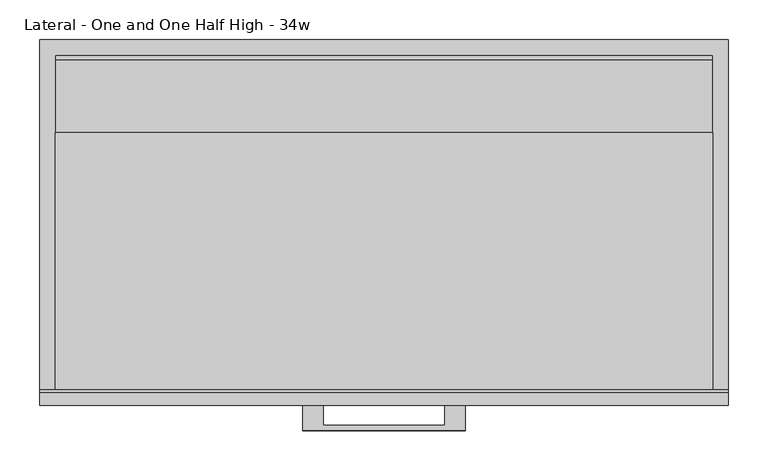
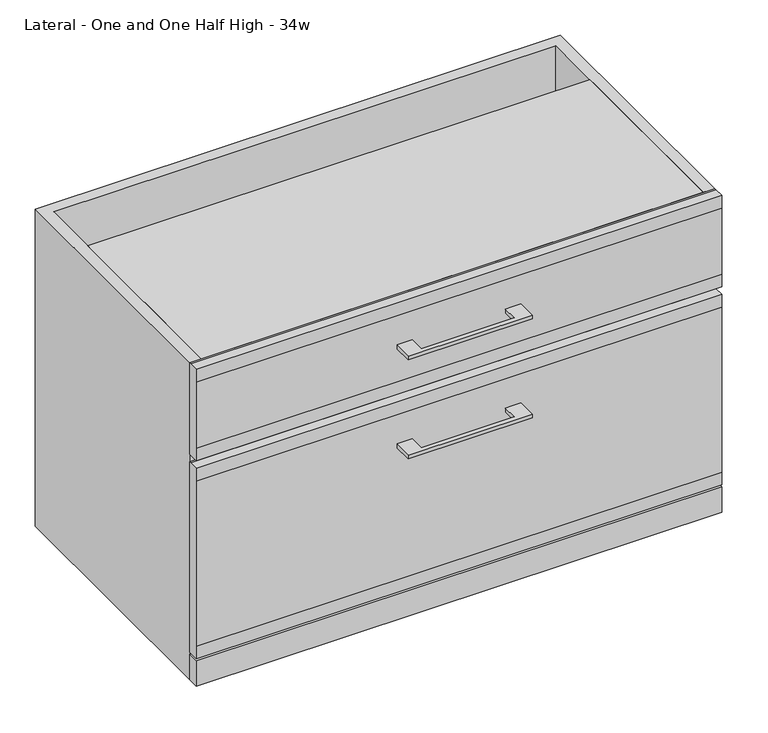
"""IFC4 building model written with IfcOpenShell, lengths in millimetres: furniture geometry, Haworth_Masters_AttachedStorage : Lateral - One and One Half High - 34w."""

from ifc_helpers import new_model, si_unit, frame, origin, origin_with_axes, place, context, project, spatial, polyline, outline, extrude, source, transform, mapped, element, save


def lateral_one_and_one_half_high_34w_b2feb271(model_context):
    return source(origin(), model_context, "Body", "SweptSolid", [
        extrude(outline(polyline([(3.1750121, -558.8), (3.1750121, -584.1999758), (155.5750061, -584.1999758), (155.5750061, -558.8), (180.975, -558.8), (180.975, -590.5499879), (-22.225, -590.5499879), (-22.225, -558.8), (3.1750121, -558.8)])), frame((0.0, 0.0, 469.9000506), z_axis=(0.0, 0.0, 1.0), x_axis=(1.0, 0.0, 0.0)), (0.0, 0.0, 1.0), 6.3499758),
        extrude(outline(polyline([(-542.925, 549.275), (-539.75, 549.275), (-539.75, 390.525), (-542.925, 390.525), (-558.8, 390.525), (-558.8, 412.75), (-558.8, 527.05), (-558.8, 549.275), (-542.925, 549.275)])), frame((-350.8375, 0.0, 0.0), z_axis=(1.0, 0.0, 0.0), x_axis=(0.0, 1.0, 0.0)), (0.0, 0.0, 1.0), 860.425),
        extrude(outline(polyline([(3.1750121, -558.8), (3.1750121, -584.1999758), (155.5750061, -584.1999758), (155.5750061, -558.8), (180.975, -558.8), (180.975, -590.5499879), (-22.225, -590.5499879), (-22.225, -558.8), (3.1750121, -558.8)])), frame((0.0, 0.0, 298.4500506), z_axis=(0.0, 0.0, 1.0), x_axis=(1.0, 0.0, 0.0)), (0.0, 0.0, 1.0), 6.3499758),
        extrude(outline(polyline([(-542.925, 377.825), (-539.75, 377.825), (-539.75, 47.625), (-542.925, 47.625), (-558.8, 47.625), (-558.8, 69.85), (-558.8, 355.6), (-558.8, 377.825), (-542.925, 377.825)])), frame((-350.8375, 0.0, 0.0), z_axis=(1.0, 0.0, 0.0), x_axis=(0.0, 1.0, 0.0)), (0.0, 0.0, 1.0), 860.425),
        extrude(outline(polyline([(490.5375, -120.65), (490.5375, -539.75), (-331.7875, -539.75), (-331.7875, -120.65), (490.5375, -120.65)])), origin_with_axes(), (0.0, 0.0, 1.0), 44.45),
        extrude(outline(polyline([(490.5375, -127.0), (490.5375, -539.75), (-331.7875, -539.75), (-331.7875, -127.0), (490.5375, -127.0)])), frame((0.0, 0.0, 369.8875), z_axis=(0.0, 0.0, 1.0), x_axis=(1.0, 0.0, 0.0)), (0.0, 0.0, 1.0), 19.05),
        extrude(outline(polyline([(509.5875, -539.75), (509.5875, -558.8), (-350.8375, -558.8), (-350.8375, -539.75), (509.5875, -539.75)])), origin_with_axes(), (0.0, 0.0, 1.0), 44.45),
        extrude(outline(polyline([(490.5375, -217.4875), (490.5375, -539.75), (-331.7875, -539.75), (-331.7875, -217.4875), (490.5375, -217.4875)])), frame((0.0, 0.0, 530.225), z_axis=(0.0, 0.0, 1.0), x_axis=(1.0, 0.0, 0.0)), (0.0, 0.0, 1.0), 19.05),
        extrude(outline(polyline([(509.5875, -101.6), (509.5875, -539.75), (490.5375, -539.75), (490.5375, -120.65), (-331.7875, -120.65), (-331.7875, -539.75), (-350.8375, -539.75), (-350.8375, -101.6), (509.5875, -101.6)])), origin_with_axes(), (0.0, 0.0, 1.0), 549.275),
    ])


if __name__ == "__main__":
    model = new_model("IFC4")
    model_context = context("Model", 3, world=origin())
    ifc_project = project(units=[si_unit("LENGTHUNIT", "METRE", prefix="MILLI")], contexts=[model_context])
    site = spatial("IfcSite", under=ifc_project)
    building = spatial("IfcBuilding", under=site)
    placement = place(None, origin())
    lateral_one_and_one_half_high_34w_shape = lateral_one_and_one_half_high_34w_b2feb271(model_context)
    element("IfcFurniture", 1, ObjectType="Haworth_Masters_AttachedStorage : Lateral - One and One Half High - 34w", at=placement, inside=building, context=model_context, shape_type="MappedRepresentation", body=[
        mapped(lateral_one_and_one_half_high_34w_shape, transform((0.0, 0.0, 0.0), x_axis=(1.0, 0.0, 0.0), y_axis=(0.0, 1.0, 0.0), z_axis=(0.0, 0.0, 1.0))),
    ])
    save(model, "model.ifc")
